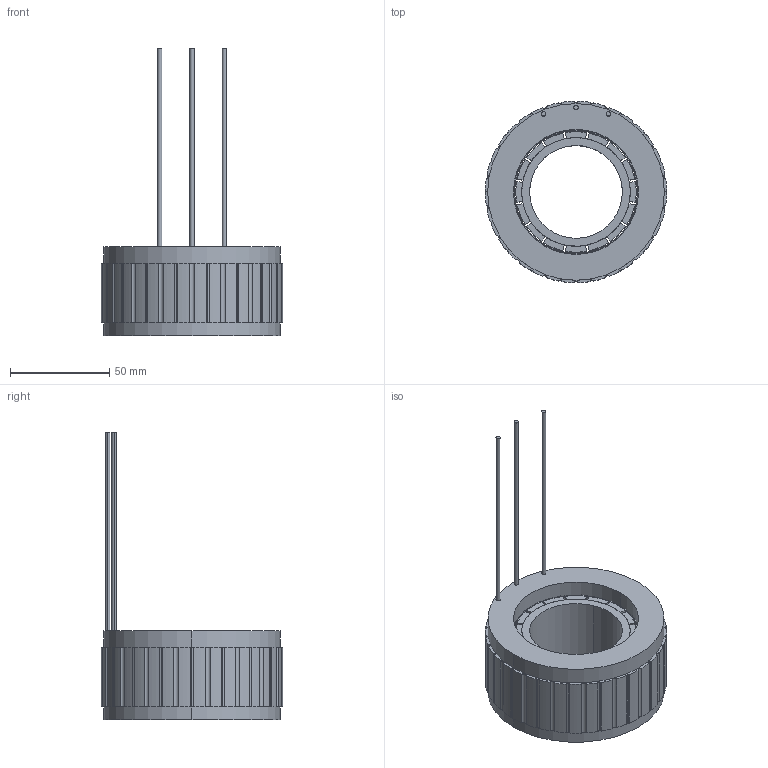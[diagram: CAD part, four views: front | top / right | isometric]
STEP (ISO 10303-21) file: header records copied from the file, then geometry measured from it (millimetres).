
FILE_DESCRIPTION (( 'STEP AP203' ), '1' );
FILE_NAME ('307080336SS FMC09130-0125-3046N-8DS00-V1.0.STEP', '2022-12-07T07:10:51', ( 'muse' ), ( 'muse' ), 'SwSTEP 2.0', 'SolidWorks 2022', '' );
FILE_SCHEMA (( 'CONFIG_CONTROL_DESIGN' ));
Length unit declared in the file: millimetre
Products named in the file (6): 91线包100; 307080336SS FMC09130-0125-3046N-8DS00-V1.0; 91L14磁钢; 转子铁芯 91L16; 91定子铁芯; 91包胶
Assembly tree (54 placements, depth 2):
  307080336SS FMC09130-0125-3046N-8DS00-V1.0
    91包胶  x18
    91定子铁芯  x18
    91线包100
    转子铁芯 91L16
    91L14磁钢  x16
Bounding box: 91.49 x 91.46 x 145 mm (x, y, z)
Volume: 164664.2 mm3; surface area: 129446.1 mm2
Topology: 55 solids, 55 shells, 1473 faces, 4044 edges, 2648 vertices
Faces by surface type: plane 865, cylinder 608
Entity records: 5513 total; most frequent: DIRECTION 709, CARTESIAN_POINT 624, ORIENTED_EDGE 554, EDGE_CURVE 277, AXIS2_PLACEMENT_3D 267, VERTEX_POINT 182, VECTOR 175, LINE 175
